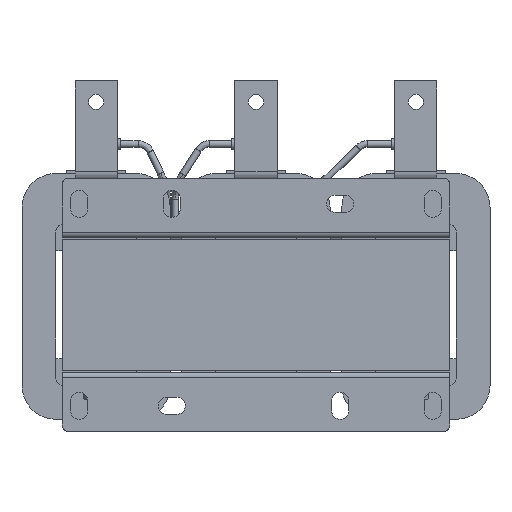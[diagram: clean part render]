
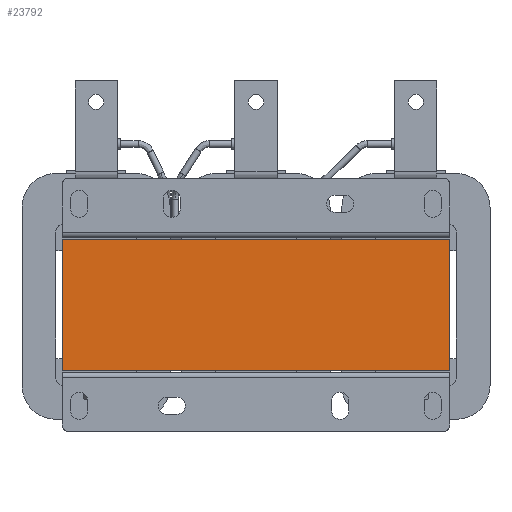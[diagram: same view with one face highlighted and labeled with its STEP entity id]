
A CAD part, front view. The second image highlights one B-rep face of the part: STEP entity #23792.
In plain terms, the highlighted planar face has unit normal (0, -1, 0).
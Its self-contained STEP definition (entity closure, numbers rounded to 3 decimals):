
#95 = CARTESIAN_POINT ( 'NONE',  ( -115., -115., 0. ) ) ;
#496 = DIRECTION ( 'NONE',  ( -1., 0., 0. ) ) ;
#1516 = VECTOR ( 'NONE', #24163, 1000. ) ;
#1692 = VERTEX_POINT ( 'NONE', #8603 ) ;
#2623 = DIRECTION ( 'NONE',  ( 0., 1., 0. ) ) ;
#3146 = AXIS2_PLACEMENT_3D ( 'NONE', #4254, #2623, #496 ) ;
#3519 = VECTOR ( 'NONE', #8663, 1000. ) ;
#4254 = CARTESIAN_POINT ( 'NONE',  ( -115., -115., 78. ) ) ;
#4774 = LINE ( 'NONE', #12405, #3519 ) ;
#5227 = DIRECTION ( 'NONE',  ( 0., 0., 1. ) ) ;
#6848 = EDGE_CURVE ( 'NONE', #19754, #10203, #18599, .T. ) ;
#7182 = VERTEX_POINT ( 'NONE', #16216 ) ;
#7234 = ORIENTED_EDGE ( 'NONE', *, *, #6848, .F. ) ;
#8255 = EDGE_CURVE ( 'NONE', #7182, #1692, #4774, .T. ) ;
#8603 = CARTESIAN_POINT ( 'NONE',  ( 115., -115., 78. ) ) ;
#8663 = DIRECTION ( 'NONE',  ( 1., 0., 0. ) ) ;
#8779 = ORIENTED_EDGE ( 'NONE', *, *, #8798, .F. ) ;
#8798 = EDGE_CURVE ( 'NONE', #10203, #7182, #22323, .T. ) ;
#9046 = CARTESIAN_POINT ( 'NONE',  ( 115., -115., 78. ) ) ;
#9106 = CARTESIAN_POINT ( 'NONE',  ( -115., -115., 78. ) ) ;
#9314 = CARTESIAN_POINT ( 'NONE',  ( 115., -115., 0. ) ) ;
#10138 = PLANE ( 'NONE',  #3146 ) ;
#10203 = VERTEX_POINT ( 'NONE', #13387 ) ;
#12405 = CARTESIAN_POINT ( 'NONE',  ( 0., -115., 78. ) ) ;
#13387 = CARTESIAN_POINT ( 'NONE',  ( -115., -115., 0. ) ) ;
#15389 = VECTOR ( 'NONE', #19087, 1000. ) ;
#16026 = ORIENTED_EDGE ( 'NONE', *, *, #8255, .F. ) ;
#16216 = CARTESIAN_POINT ( 'NONE',  ( -115., -115., 78. ) ) ;
#18599 = LINE ( 'NONE', #95, #15389 ) ;
#19087 = DIRECTION ( 'NONE',  ( -1., 0., 0. ) ) ;
#19754 = VERTEX_POINT ( 'NONE', #9314 ) ;
#20687 = VECTOR ( 'NONE', #5227, 1000. ) ;
#21105 = ORIENTED_EDGE ( 'NONE', *, *, #23005, .F. ) ;
#21358 = FACE_OUTER_BOUND ( 'NONE', #21698, .T. ) ;
#21698 = EDGE_LOOP ( 'NONE', ( #21105, #16026, #8779, #7234 ) ) ;
#22323 = LINE ( 'NONE', #9106, #20687 ) ;
#23005 = EDGE_CURVE ( 'NONE', #1692, #19754, #24539, .T. ) ;
#23792 = ADVANCED_FACE ( 'NONE', ( #21358 ), #10138, .F. ) ;
#24163 = DIRECTION ( 'NONE',  ( 0., 0., -1. ) ) ;
#24539 = LINE ( 'NONE', #9046, #1516 ) ;
